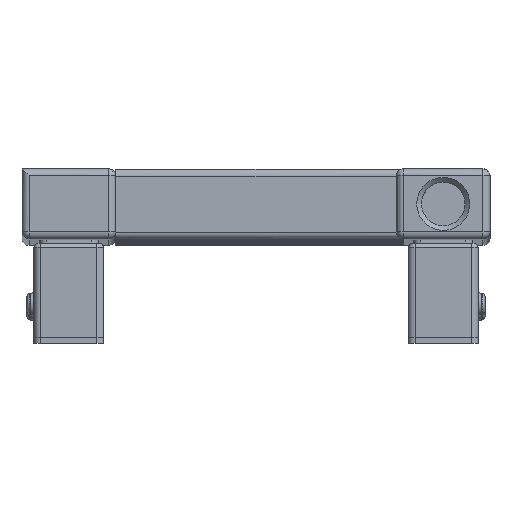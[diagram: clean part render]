
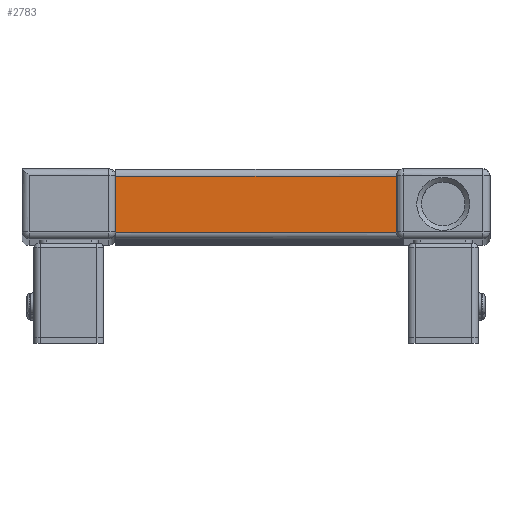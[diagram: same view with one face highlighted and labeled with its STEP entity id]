
A CAD part, top view. The second image highlights one B-rep face of the part: STEP entity #2783.
In plain terms, the highlighted planar face has unit normal (0, 0, 1).
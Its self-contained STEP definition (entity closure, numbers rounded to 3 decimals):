
#2716=CARTESIAN_POINT('',(60.,-12.,1540.0));
#2717=VERTEX_POINT('',#2716);
#2727=CARTESIAN_POINT('',(-60.0,-12.,1540.0));
#2728=VERTEX_POINT('',#2727);
#2729=CARTESIAN_POINT('',(-60.0,-12.,1540.0));
#2730=DIRECTION('',(1.0,0.0,0.0));
#2731=VECTOR('',#2730,120.0);
#2732=LINE('',#2729,#2731);
#2733=EDGE_CURVE('',#2728,#2717,#2732,.T.);
#2753=CARTESIAN_POINT('',(-60.0,-12.,1540.0));
#2754=DIRECTION('',(0.0,0.0,1.0));
#2755=DIRECTION('',(1.0,0.0,0.0));
#2756=AXIS2_PLACEMENT_3D('',#2753,#2754,#2755);
#2757=PLANE('',#2756);
#2758=CARTESIAN_POINT('',(60.0,12.,1540.0));
#2759=VERTEX_POINT('',#2758);
#2760=CARTESIAN_POINT('',(60.0,12.,1540.0));
#2761=DIRECTION('',(0.0,-1.0,0.0));
#2762=VECTOR('',#2761,24.);
#2763=LINE('',#2760,#2762);
#2764=EDGE_CURVE('',#2759,#2717,#2763,.T.);
#2765=ORIENTED_EDGE('',*,*,#2764,.F.);
#2766=CARTESIAN_POINT('',(-60.0,12.,1540.0));
#2767=VERTEX_POINT('',#2766);
#2768=CARTESIAN_POINT('',(-60.0,12.,1540.0));
#2769=DIRECTION('',(1.0,0.0,0.0));
#2770=VECTOR('',#2769,120.0);
#2771=LINE('',#2768,#2770);
#2772=EDGE_CURVE('',#2767,#2759,#2771,.T.);
#2773=ORIENTED_EDGE('',*,*,#2772,.F.);
#2774=CARTESIAN_POINT('',(-60.0,-12.,1540.0));
#2775=DIRECTION('',(0.0,1.0,0.0));
#2776=VECTOR('',#2775,24.);
#2777=LINE('',#2774,#2776);
#2778=EDGE_CURVE('',#2728,#2767,#2777,.T.);
#2779=ORIENTED_EDGE('',*,*,#2778,.F.);
#2780=ORIENTED_EDGE('',*,*,#2733,.T.);
#2781=EDGE_LOOP('',(#2765,#2773,#2779,#2780));
#2782=FACE_OUTER_BOUND('',#2781,.T.);
#2783=ADVANCED_FACE('',(#2782),#2757,.T.);
